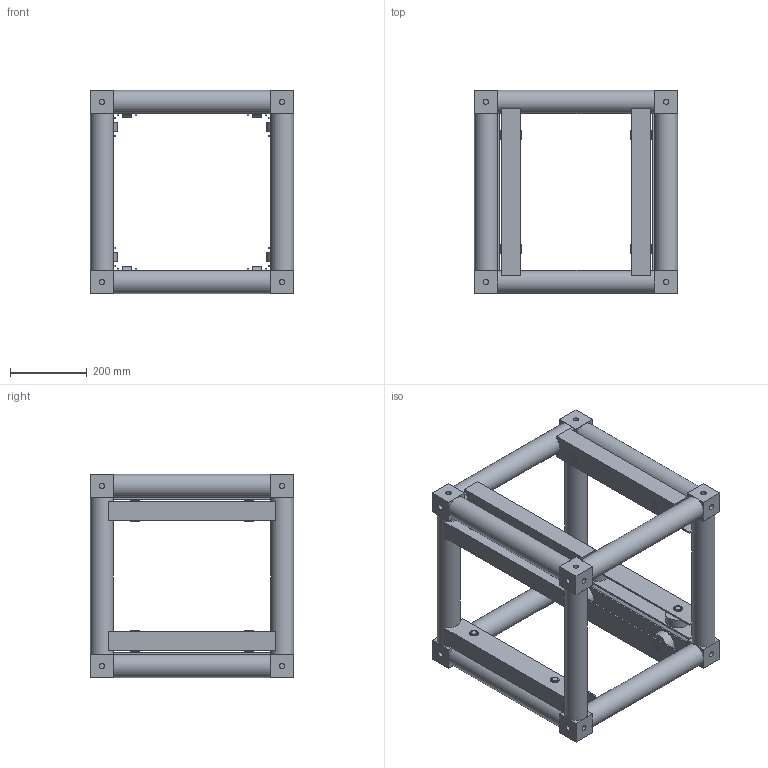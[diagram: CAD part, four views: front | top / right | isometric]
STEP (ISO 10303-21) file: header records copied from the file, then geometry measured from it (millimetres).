
FILE_DESCRIPTION(/* description */ (''),/* implementation_level */ '2;1');
FILE_NAME(/* name */ 'M:\Symbolen_NIEUW\STP\Sleeveblocks\111820020.stp',/* time_stamp */ '2015-06-02T09:20:55+02:00',/* author */ ('Stephan'),/* organization */ (''),/* preprocessor_version */ 'ST-DEVELOPER v15.6',/* originating_system */ 'Autodesk Inventor 2015',/* authorisation */ '');
FILE_SCHEMA (('AUTOMOTIVE_DESIGN { 1 0 10303 214 3 1 1 }'));
Length unit declared in the file: millimetre
Products named in the file (1): 160024352
Bounding box: 530 x 530 x 530 mm (x, y, z)
Volume: 19281576.3 mm3; surface area: 2529436.6 mm2
Topology: 17 solids, 49 shells, 1036 faces, 2200 edges, 1416 vertices
Faces by surface type: plane 544, cylinder 364, cone 128
Full cylindrical faces by diameter (mm): 13.835 x48, 16 x64, 16.1 x32, 16.2 x32, 22 x32, 22.1 x32, 23.691 x32, 30 x32, 34.5 x32, 60 x12, 65 x16
Entity records: 25896 total; most frequent: DIRECTION 4642, CARTESIAN_POINT 3805, ORIENTED_EDGE 3056, AXIS2_PLACEMENT_3D 2077, EDGE_LOOP 1904, EDGE_CURVE 1528, VERTEX_POINT 1240, STYLED_ITEM 1053
